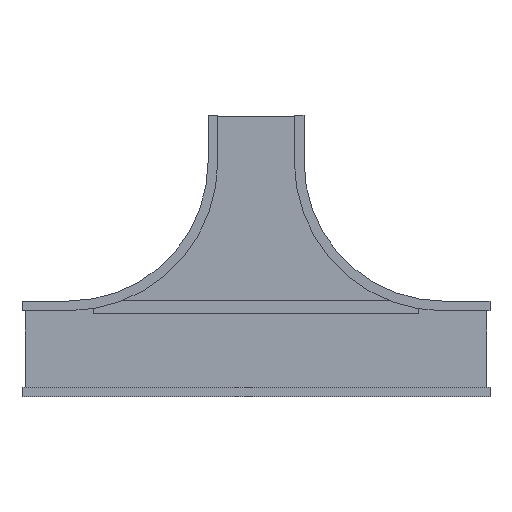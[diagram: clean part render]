
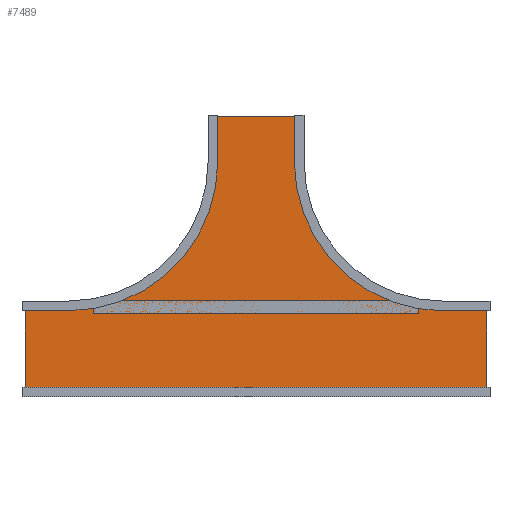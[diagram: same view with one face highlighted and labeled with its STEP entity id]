
A CAD part, front view. The second image highlights one B-rep face of the part: STEP entity #7489.
In plain terms, the highlighted planar face has unit normal (0, -1, 0).
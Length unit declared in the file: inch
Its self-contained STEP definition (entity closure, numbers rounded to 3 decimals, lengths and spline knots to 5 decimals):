
#7298=DIRECTION('',(1.,0.,0.));
#7299=VECTOR('',#7298,5.875);
#7300=CARTESIAN_POINT('',(-2.9375,0.,0.));
#7301=LINE('',#7300,#7299);
#7302=DIRECTION('',(0.,0.,-1.));
#7303=VECTOR('',#7302,2.875);
#7304=CARTESIAN_POINT('',(2.9375,0.,0.));
#7305=LINE('',#7304,#7303);
#7306=CARTESIAN_POINT('',(12.,0.,-2.875));
#7307=DIRECTION('',(0.,-1.,0.));
#7308=DIRECTION('',(-1.,0.,0.));
#7309=AXIS2_PLACEMENT_3D('',#7306,#7307,#7308);
#7311=DIRECTION('',(1.,0.,0.));
#7312=VECTOR('',#7311,2.875);
#7313=CARTESIAN_POINT('',(12.,0.,-11.9375));
#7314=LINE('',#7313,#7312);
#7315=DIRECTION('',(0.,0.,-1.));
#7316=VECTOR('',#7315,5.875);
#7317=CARTESIAN_POINT('',(14.875,0.,-11.9375));
#7318=LINE('',#7317,#7316);
#7319=DIRECTION('',(-1.,0.,0.));
#7320=VECTOR('',#7319,29.75);
#7321=CARTESIAN_POINT('',(14.875,0.,-17.8125));
#7322=LINE('',#7321,#7320);
#7323=DIRECTION('',(0.,0.,1.));
#7324=VECTOR('',#7323,5.875);
#7325=CARTESIAN_POINT('',(-14.875,0.,-17.8125));
#7326=LINE('',#7325,#7324);
#7327=DIRECTION('',(1.,0.,0.));
#7328=VECTOR('',#7327,2.875);
#7329=CARTESIAN_POINT('',(-14.875,0.,-11.9375));
#7330=LINE('',#7329,#7328);
#7331=CARTESIAN_POINT('',(-12.,0.,-2.875));
#7332=DIRECTION('',(0.,-1.,0.));
#7333=DIRECTION('',(0.,0.,-1.));
#7334=AXIS2_PLACEMENT_3D('',#7331,#7332,#7333);
#7336=DIRECTION('',(0.,0.,1.));
#7337=VECTOR('',#7336,2.875);
#7338=CARTESIAN_POINT('',(-2.9375,0.,-2.875));
#7339=LINE('',#7338,#7337);
#7422=CARTESIAN_POINT('',(-2.9375,0.,0.));
#7423=CARTESIAN_POINT('',(2.9375,0.,0.));
#7424=VERTEX_POINT('',#7422);
#7425=VERTEX_POINT('',#7423);
#7426=CARTESIAN_POINT('',(2.9375,0.,-2.875));
#7427=VERTEX_POINT('',#7426);
#7428=CARTESIAN_POINT('',(12.,0.,-11.9375));
#7429=VERTEX_POINT('',#7428);
#7430=CARTESIAN_POINT('',(14.875,0.,-11.9375));
#7431=VERTEX_POINT('',#7430);
#7432=CARTESIAN_POINT('',(14.875,0.,-17.8125));
#7433=VERTEX_POINT('',#7432);
#7434=CARTESIAN_POINT('',(-14.875,0.,-17.8125));
#7435=VERTEX_POINT('',#7434);
#7436=CARTESIAN_POINT('',(-14.875,0.,-11.9375));
#7437=VERTEX_POINT('',#7436);
#7438=CARTESIAN_POINT('',(-12.,0.,-11.9375));
#7439=VERTEX_POINT('',#7438);
#7440=CARTESIAN_POINT('',(-2.9375,0.,-2.875));
#7441=VERTEX_POINT('',#7440);
#7462=CARTESIAN_POINT('',(0.,0.,0.));
#7463=DIRECTION('',(0.,1.,0.));
#7464=DIRECTION('',(1.,0.,0.));
#7465=AXIS2_PLACEMENT_3D('',#7462,#7463,#7464);
#7466=PLANE('',#7465);
#7468=ORIENTED_EDGE('',*,*,#7467,.T.);
#7470=ORIENTED_EDGE('',*,*,#7469,.T.);
#7472=ORIENTED_EDGE('',*,*,#7471,.T.);
#7474=ORIENTED_EDGE('',*,*,#7473,.T.);
#7476=ORIENTED_EDGE('',*,*,#7475,.T.);
#7478=ORIENTED_EDGE('',*,*,#7477,.T.);
#7480=ORIENTED_EDGE('',*,*,#7479,.T.);
#7482=ORIENTED_EDGE('',*,*,#7481,.T.);
#7484=ORIENTED_EDGE('',*,*,#7483,.T.);
#7486=ORIENTED_EDGE('',*,*,#7485,.T.);
#7487=EDGE_LOOP('',(#7468,#7470,#7472,#7474,#7476,#7478,#7480,#7482,#7484,
#7486));
#7488=FACE_OUTER_BOUND('',#7487,.F.);
#7489=ADVANCED_FACE('',(#7488),#7466,.F.);
#7310=CIRCLE('',#7309,9.0625);
#7335=CIRCLE('',#7334,9.0625);
#7467=EDGE_CURVE('',#7424,#7425,#7301,.T.);
#7469=EDGE_CURVE('',#7425,#7427,#7305,.T.);
#7471=EDGE_CURVE('',#7427,#7429,#7310,.T.);
#7473=EDGE_CURVE('',#7429,#7431,#7314,.T.);
#7475=EDGE_CURVE('',#7431,#7433,#7318,.T.);
#7477=EDGE_CURVE('',#7433,#7435,#7322,.T.);
#7479=EDGE_CURVE('',#7435,#7437,#7326,.T.);
#7481=EDGE_CURVE('',#7437,#7439,#7330,.T.);
#7483=EDGE_CURVE('',#7439,#7441,#7335,.T.);
#7485=EDGE_CURVE('',#7441,#7424,#7339,.T.);
